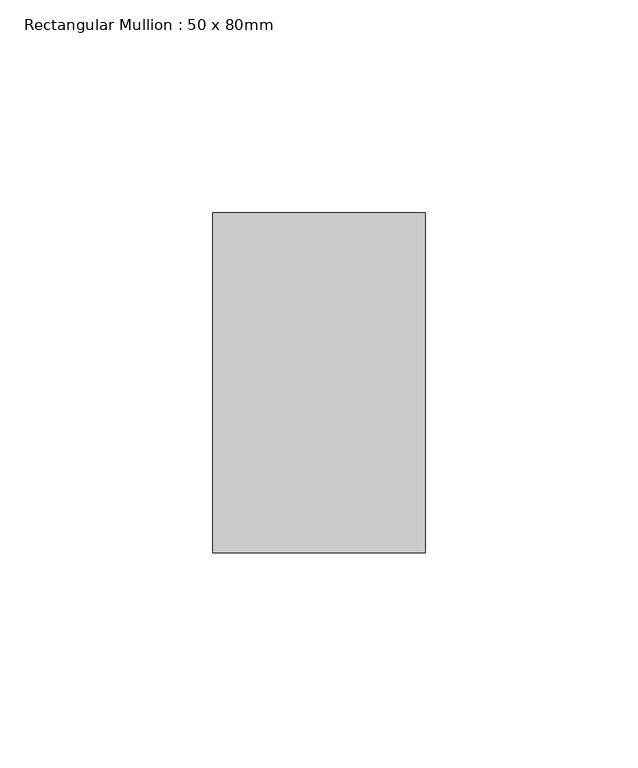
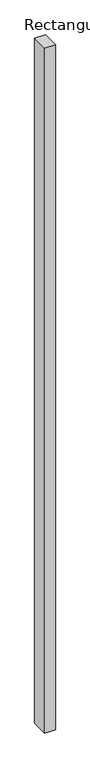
"""IFC4 building model written with IfcOpenShell, lengths in millimetres: member geometry, Rectangular Mullion : 50 x 80mm."""

from ifc_helpers import new_model, si_unit, frame, origin, place, context, project, spatial, polyline, outline, extrude, source, transform, mapped, element, save


def rectangular_mullion_50_x_80mm_d9664e05(model_context):
    return source(origin(), model_context, "Body", "SweptSolid", [
        extrude(outline(polyline([(0.0, 25.0), (0.0, -55.0), (-50.0, -55.0), (-50.0, 25.0), (0.0, 25.0)])), frame((0.0, 0.0, -3371.3320339), z_axis=(0.0, 0.0, 1.0), x_axis=(1.0, 0.0, 0.0)), (0.0, 0.0, 1.0), 3371.3320339),
    ])


if __name__ == "__main__":
    model = new_model("IFC4")
    model_context = context("Model", 3, world=origin())
    ifc_project = project(units=[si_unit("LENGTHUNIT", "METRE", prefix="MILLI")], contexts=[model_context])
    site = spatial("IfcSite", under=ifc_project)
    building = spatial("IfcBuilding", under=site)
    placement = place(None, origin())
    rectangular_mullion_50_x_80mm_shape = rectangular_mullion_50_x_80mm_d9664e05(model_context)
    element("IfcMember", 1, ObjectType="Rectangular Mullion : 50 x 80mm", at=placement, inside=building, context=model_context, shape_type="MappedRepresentation", body=[
        mapped(rectangular_mullion_50_x_80mm_shape, transform((0.0, 0.0, 0.0), x_axis=(1.0, 0.0, 0.0), y_axis=(0.0, 1.0, 0.0), z_axis=(0.0, 0.0, 1.0))),
    ])
    save(model, "model.ifc")
